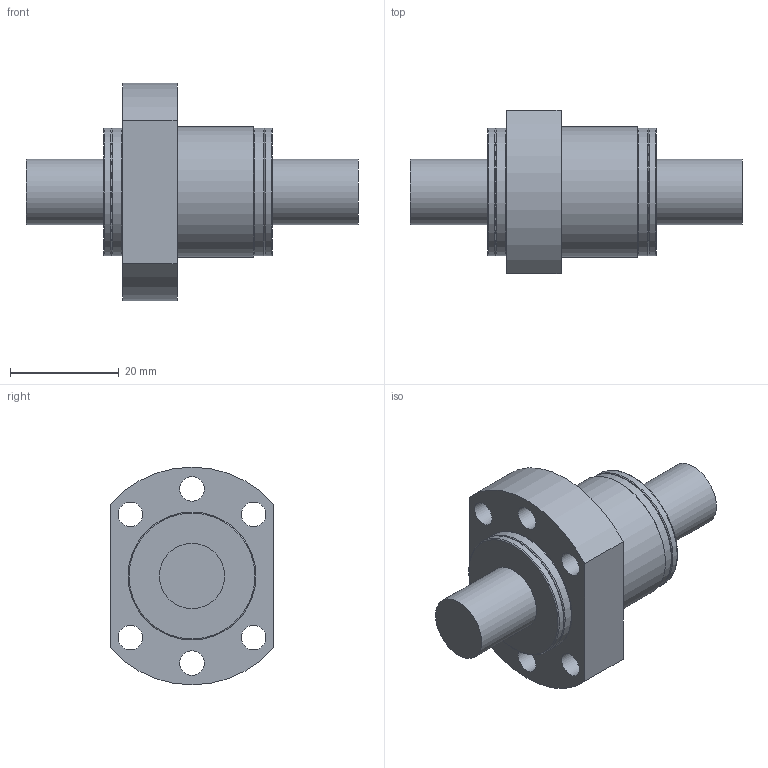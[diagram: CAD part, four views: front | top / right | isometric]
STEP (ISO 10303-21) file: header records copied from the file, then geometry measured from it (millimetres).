
FILE_DESCRIPTION(/* description */ (''),/* implementation_level */ '2;1');
FILE_NAME(/* name */ 'SFJ1205-2.8.stp',/* time_stamp */ '2023-02-20T10:28:24+08:00',/* author */ (''),/* organization */ (''),/* preprocessor_version */ 'ST-DEVELOPER v16.7',/* originating_system */ 'SIEMENS PLM Software NX 1892',/* authorisation */ '');
FILE_SCHEMA (('AUTOMOTIVE_DESIGN { 1 0 10303 214 3 1 1 1 }'));
Length unit declared in the file: millimetre
Products named in the file (1): 03161CD0525Bcuew
Bounding box: 61 x 30 x 40 mm (x, y, z)
Volume: 22556.3 mm3; surface area: 6785.2 mm2
Topology: 1 solids, 1 shells, 32 faces, 73 edges, 48 vertices
Faces by surface type: cylinder 15, plane 9, torus 8
Full cylindrical faces by diameter (mm): 4.5 x6, 12 x2, 23.5 x4, 24 x1
Entity records: 796 total; most frequent: DIRECTION 146, CARTESIAN_POINT 117, ORIENTED_EDGE 88, EDGE_LOOP 70, AXIS2_PLACEMENT_3D 69, FACE_BOUND 64, EDGE_CURVE 44, VERTEX_POINT 40
